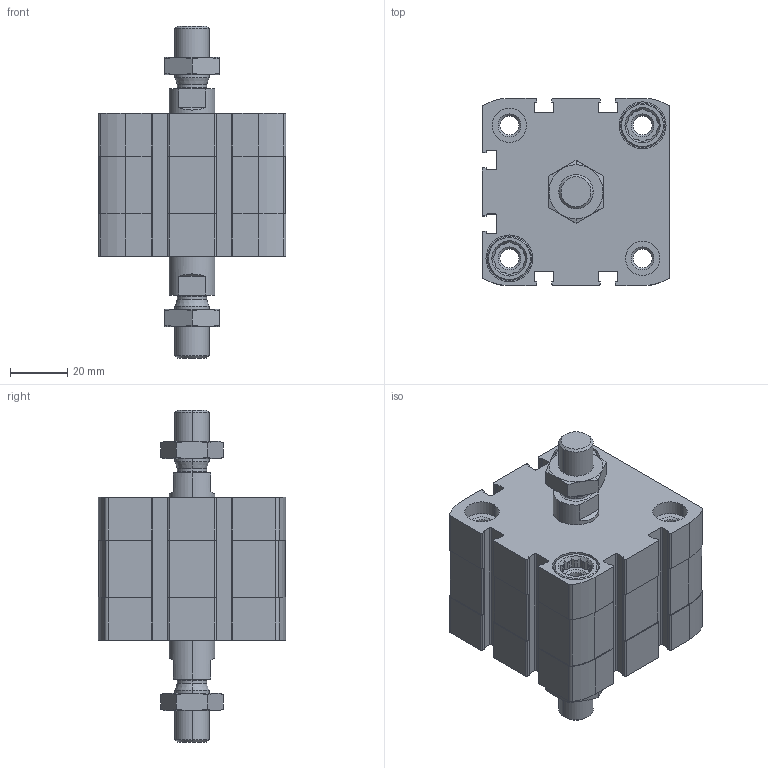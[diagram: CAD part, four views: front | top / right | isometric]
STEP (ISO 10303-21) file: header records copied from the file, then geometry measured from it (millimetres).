
FILE_DESCRIPTION (( 'STEP AP203' ), '1' );
FILE_NAME ('CCN50-5-P.STEP', '2020-06-22T18:55:16', ( '' ), ( '' ), 'SwSTEP 2.0', 'SolidWorks 2019', '' );
FILE_SCHEMA (( 'CONFIG_CONTROL_DESIGN' ));
Length unit declared in the file: millimetre
Products named in the file (1): CCN50-5-P
Bounding box: 65.5 x 65.5 x 116 mm (x, y, z)
Volume: 192910.4 mm3; surface area: 52639.7 mm2
Topology: 4 solids, 4 shells, 528 faces, 1392 edges, 904 vertices
Faces by surface type: plane 240, cylinder 220, cone 60, torus 8
Entity records: 17219 total; most frequent: CARTESIAN_POINT 3821, DIRECTION 2842, ORIENTED_EDGE 2784, EDGE_CURVE 1392, AXIS2_PLACEMENT_3D 1045, VERTEX_POINT 904, LINE 752, VECTOR 752
